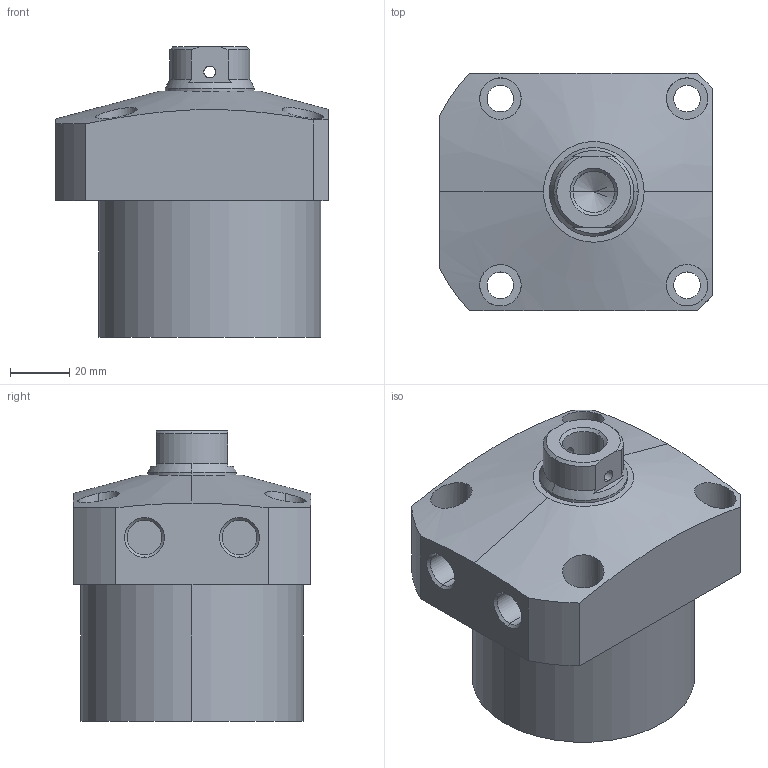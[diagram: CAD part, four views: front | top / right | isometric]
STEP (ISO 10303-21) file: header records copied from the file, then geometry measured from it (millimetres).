
FILE_DESCRIPTION (( 'STEP AP203' ), '1' );
FILE_NAME ('CLL-075CB-030.STEP', '2019-12-20T06:04:44', ( '' ), ( '' ), 'SwSTEP 2.0', 'SolidWorks 2015', '' );
FILE_SCHEMA (( 'CONFIG_CONTROL_DESIGN' ));
Length unit declared in the file: millimetre
Products named in the file (1): CLL-075CB-030
Bounding box: 92 x 80 x 98 mm (x, y, z)
Volume: 425792.5 mm3; surface area: 42193.1 mm2
Topology: 1 solids, 1 shells, 76 faces, 181 edges, 116 vertices
Faces by surface type: cylinder 39, plane 22, cone 15
Entity records: 2809 total; most frequent: CARTESIAN_POINT 932, DIRECTION 386, ORIENTED_EDGE 358, EDGE_CURVE 179, AXIS2_PLACEMENT_3D 158, VERTEX_POINT 116, EDGE_LOOP 99, CIRCLE 81
